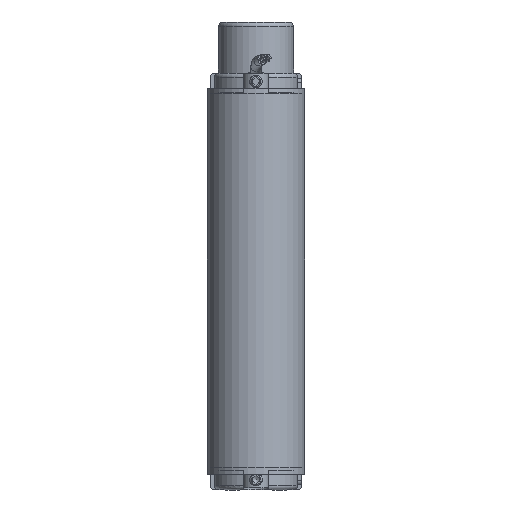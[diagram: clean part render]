
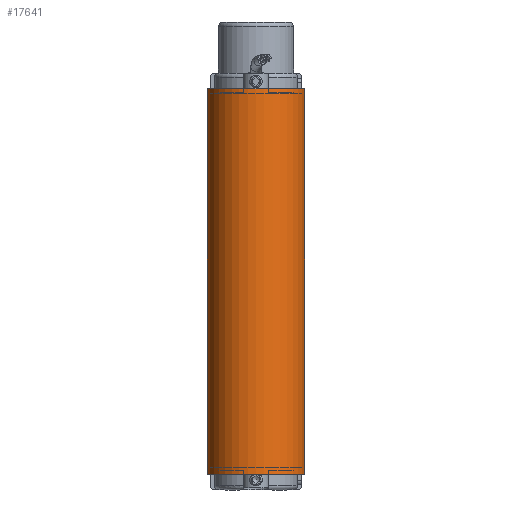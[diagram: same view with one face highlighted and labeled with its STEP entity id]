
A CAD part, front view. The second image highlights one B-rep face of the part: STEP entity #17641.
In plain terms, the highlighted cylindrical face has radius 23.3 mm (diameter 46.6 mm), a partial arc.
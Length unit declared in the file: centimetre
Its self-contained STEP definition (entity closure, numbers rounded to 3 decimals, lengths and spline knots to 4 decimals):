
#1365=FACE_OUTER_BOUND('',#2341,.T.);
#2341=EDGE_LOOP('',(#12549,#12550,#12551,#12552));
#3381=CIRCLE('',#18926,2.33);
#3383=CIRCLE('',#18930,2.33);
#4384=LINE('',#27274,#5760);
#4385=LINE('',#27278,#5761);
#5760=VECTOR('',#21698,1.);
#5761=VECTOR('',#21703,1.);
#7295=VERTEX_POINT('',#27229);
#7296=VERTEX_POINT('',#27231);
#7315=VERTEX_POINT('',#27272);
#7316=VERTEX_POINT('',#27276);
#9266=EDGE_CURVE('',#7296,#7295,#3381,.T.);
#9288=EDGE_CURVE('',#7315,#7295,#4384,.T.);
#9289=EDGE_CURVE('',#7315,#7316,#3383,.T.);
#9290=EDGE_CURVE('',#7296,#7316,#4385,.T.);
#12549=ORIENTED_EDGE('',*,*,#9266,.T.);
#12550=ORIENTED_EDGE('',*,*,#9288,.F.);
#12551=ORIENTED_EDGE('',*,*,#9289,.T.);
#12552=ORIENTED_EDGE('',*,*,#9290,.F.);
#16248=CYLINDRICAL_SURFACE('',#18929,2.33);
#17641=ADVANCED_FACE('',(#1365),#16248,.T.);
#18926=AXIS2_PLACEMENT_3D('',#27232,#21672,#21673);
#18929=AXIS2_PLACEMENT_3D('',#27275,#21699,#21700);
#18930=AXIS2_PLACEMENT_3D('',#27277,#21701,#21702);
#21672=DIRECTION('center_axis',(0.,0.,
1.));
#21673=DIRECTION('ref_axis',(-1.,0.,0.));
#21698=DIRECTION('',(0.,0.,-1.));
#21699=DIRECTION('center_axis',(0.,0.,
-1.));
#21700=DIRECTION('ref_axis',(-1.,0.,0.));
#21701=DIRECTION('center_axis',(0.,0.,
-1.));
#21702=DIRECTION('ref_axis',(-1.,0.,0.));
#21703=DIRECTION('',(0.,0.,1.));
#27229=CARTESIAN_POINT('',(2.33,-127.,-9.25));
#27231=CARTESIAN_POINT('',(-2.33,-127.,-9.25));
#27232=CARTESIAN_POINT('Origin',(0.,-127.,-9.25));
#27272=CARTESIAN_POINT('',(2.33,-127.,9.25));
#27274=CARTESIAN_POINT('',(2.33,-127.,0.));
#27275=CARTESIAN_POINT('Origin',(0.,-127.,0.));
#27276=CARTESIAN_POINT('',(-2.33,-127.,9.25));
#27277=CARTESIAN_POINT('Origin',(0.,-127.,9.25));
#27278=CARTESIAN_POINT('',(-2.33,-127.,0.));
